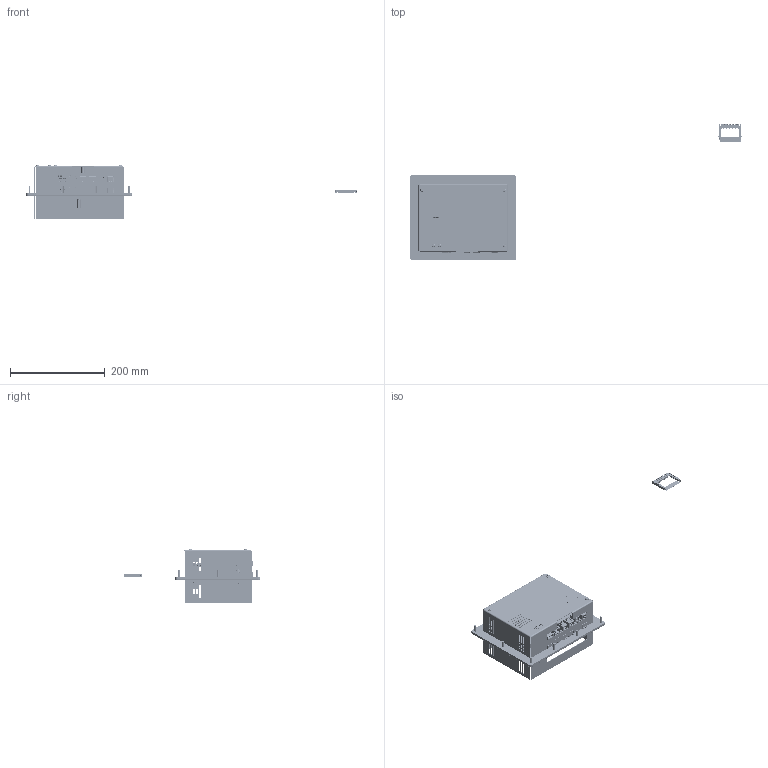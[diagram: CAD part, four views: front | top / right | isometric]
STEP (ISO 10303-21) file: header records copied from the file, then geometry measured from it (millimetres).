
FILE_DESCRIPTION( ( 'Unknown' ), '1' );
FILE_NAME( 'U:/Desktop/G306A.stp', 'Unknown', ( 'Unknown' ), ( 'Unknown' ), 'PSStep 11.0', 'Unknown', ' ' );
FILE_SCHEMA( ( 'AUTOMOTIVE_DESIGN { 1 0 10303 214 1 1 1 1 }' ) );
Length unit declared in the file: inch
Products named in the file (79): PN113829; HWSMEZ08; PB03821; CV361700; Assem1; E1638; SCOCMC11; SCOCMC11_display-Hantronix; SCOCMC11_conn; INI015M0; CNBMR080; CNHMR021; BSO-8632-18; BSO-8632-18-oa17; BSO-8632-18-oa18; S-632-1; CV113456; FHL-632-14; FH-632-8; FH-632-8-oa0; FH-632-8-oa1; FHL-632-20; FH-832-12; FH-832-12-oa2; FH-832-12-oa3; FH-832-12-oa4; FH-832-12-oa5; FH-832-12-oa6; FH-832-12-oa7; FH-832-12-oa8; FH-832-12-oa9; FH-832-12-oa10; CNTP03X0; CNMJ6601; CNMJ8801; CNHFR040; CNMJ8803; CNZT0060; CNZB0100; CNEP0500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
Bounding box: 701.38 x 289.06 x 115.89 mm (x, y, z)
Surface area: 1152794.3 mm2 (no closed solid volume)
Topology: 0 solids, 28586 shells, 28586 faces, 160603 edges, 158725 vertices
Faces by surface type: plane 22733, cylinder 4582, torus 808, bspline 155, cone 140, extrusion 100, sphere 68
Full cylindrical faces by diameter (mm): 0.4 x150, 0.559 x18, 0.61 x6, 0.635 x384, 0.711 x6, 0.8 x18, 0.889 x84, 0.94 x12, 0.991 x12, 1.016 x48, 1.168 x24, 1.2 x18, 1.372 x12, 1.499 x9, 1.524 x12, 1.575 x6, 1.6 x6, 1.651 x6, 1.778 x6, 2 x9, 2.2 x6, 2.337 x6, 2.362 x6, 2.515 x3, 2.6 x12, 2.647 x26, 3 x5, 3.048 x6, 3.155 x10, 3.175 x9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
Entity records: 572770 total; most frequent: CARTESIAN_POINT 122523, DIRECTION 75700, ORIENTED_EDGE 51466, EDGE_CURVE 51466, VERTEX_POINT 51466, VECTOR 44360, LINE 44322, AXIS2_PLACEMENT_3D 15670
